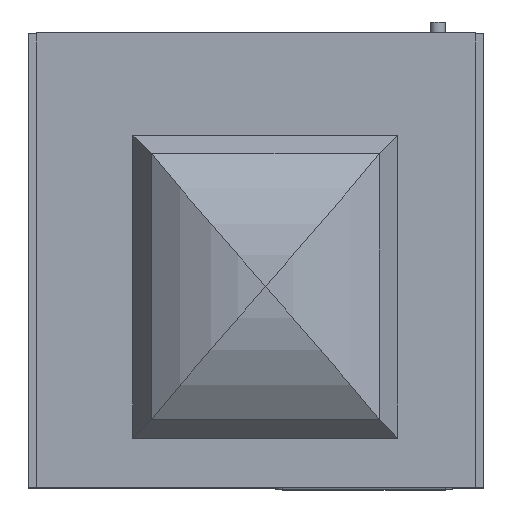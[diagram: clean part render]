
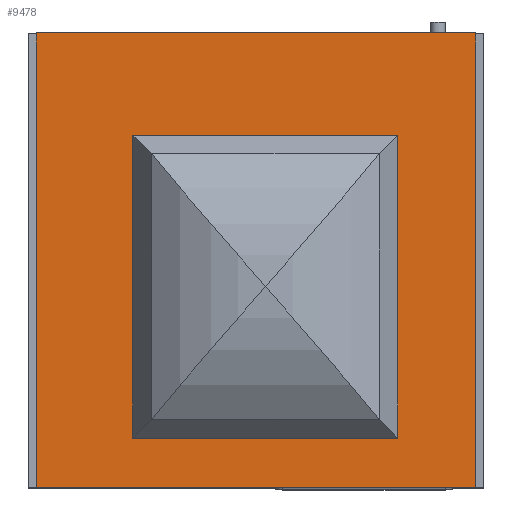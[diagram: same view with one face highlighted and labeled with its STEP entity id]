
A CAD part, top view. The second image highlights one B-rep face of the part: STEP entity #9478.
In plain terms, the highlighted planar face has unit normal (0, 0, 1).
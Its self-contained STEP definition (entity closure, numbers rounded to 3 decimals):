
#906=ORIENTED_EDGE('',*,*,#3603,.T.);
#907=ORIENTED_EDGE('',*,*,#3602,.T.);
#908=ORIENTED_EDGE('',*,*,#3600,.F.);
#909=ORIENTED_EDGE('',*,*,#3597,.F.);
#910=ORIENTED_EDGE('',*,*,#3604,.F.);
#911=ORIENTED_EDGE('',*,*,#3605,.F.);
#912=ORIENTED_EDGE('',*,*,#3606,.F.);
#913=ORIENTED_EDGE('',*,*,#3607,.F.);
#3597=EDGE_CURVE('',#4954,#4955,#5896,.T.);
#3600=EDGE_CURVE('',#4955,#4956,#5899,.T.);
#3602=EDGE_CURVE('',#4957,#4956,#5901,.T.);
#3603=EDGE_CURVE('',#4954,#4957,#5902,.T.);
#3604=EDGE_CURVE('',#4958,#4959,#5903,.T.);
#3605=EDGE_CURVE('',#4960,#4958,#5904,.T.);
#3606=EDGE_CURVE('',#4961,#4960,#5905,.T.);
#3607=EDGE_CURVE('',#4959,#4961,#5906,.T.);
#4954=VERTEX_POINT('',#15840);
#4955=VERTEX_POINT('',#15842);
#4956=VERTEX_POINT('',#15846);
#4957=VERTEX_POINT('',#15850);
#4958=VERTEX_POINT('',#15856);
#4959=VERTEX_POINT('',#15857);
#4960=VERTEX_POINT('',#15859);
#4961=VERTEX_POINT('',#15861);
#5896=LINE('',#15841,#6752);
#5899=LINE('',#15847,#6755);
#5901=LINE('',#15851,#6757);
#5902=LINE('',#15853,#6758);
#5903=LINE('',#15855,#6759);
#5904=LINE('',#15858,#6760);
#5905=LINE('',#15860,#6761);
#5906=LINE('',#15862,#6762);
#6752=VECTOR('',#13212,1000.);
#6755=VECTOR('',#13217,1000.);
#6757=VECTOR('',#13221,1000.);
#6758=VECTOR('',#13224,1000.);
#6759=VECTOR('',#13227,1000.);
#6760=VECTOR('',#13228,1000.);
#6761=VECTOR('',#13229,1000.);
#6762=VECTOR('',#13230,1000.);
#7593=EDGE_LOOP('',(#906,#907,#908,#909));
#7594=EDGE_LOOP('',(#910,#911,#912,#913));
#8346=FACE_BOUND('',#7593,.T.);
#8347=FACE_BOUND('',#7594,.T.);
#9093=PLANE('',#12298);
#9478=ADVANCED_FACE('',(#8346,#8347),#9093,.T.);
#12298=AXIS2_PLACEMENT_3D('',#15854,#13225,#13226);
#13212=DIRECTION('',(0.,1.,0.));
#13217=DIRECTION('',(-1.,0.,0.));
#13221=DIRECTION('',(0.,1.,0.));
#13224=DIRECTION('',(-1.,0.,0.));
#13225=DIRECTION('',(0.,0.,1.));
#13226=DIRECTION('',(1.,0.,0.));
#13227=DIRECTION('',(-1.,0.,0.));
#13228=DIRECTION('',(0.,-1.,0.));
#13229=DIRECTION('',(1.,0.,0.));
#13230=DIRECTION('',(0.,1.,0.));
#15840=CARTESIAN_POINT('',(477.5,65.,360.));
#15841=CARTESIAN_POINT('',(477.5,31.989,360.));
#15842=CARTESIAN_POINT('',(477.5,465.,360.));
#15846=CARTESIAN_POINT('',(127.5,465.,360.));
#15847=CARTESIAN_POINT('',(540.,465.,360.));
#15850=CARTESIAN_POINT('',(127.5,65.,360.));
#15851=CARTESIAN_POINT('',(127.5,31.989,360.));
#15853=CARTESIAN_POINT('',(540.,65.,360.));
#15854=CARTESIAN_POINT('',(580.,600.,360.));
#15855=CARTESIAN_POINT('',(580.,-0.001,360.));
#15856=CARTESIAN_POINT('',(580.001,-0.001,360.));
#15857=CARTESIAN_POINT('',(-0.001,-0.001,360.));
#15858=CARTESIAN_POINT('',(580.001,600.001,360.));
#15859=CARTESIAN_POINT('',(580.001,600.001,360.));
#15860=CARTESIAN_POINT('',(0.,600.001,360.));
#15861=CARTESIAN_POINT('',(-0.001,600.001,360.));
#15862=CARTESIAN_POINT('',(-0.001,0.,360.));
